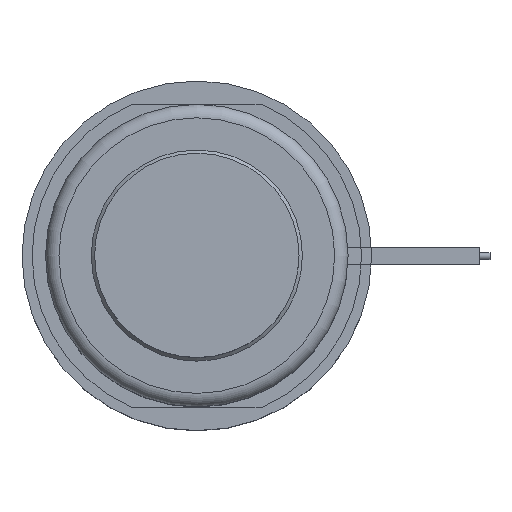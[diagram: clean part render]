
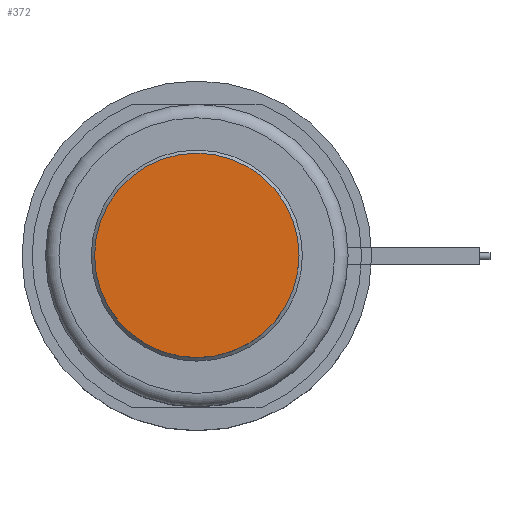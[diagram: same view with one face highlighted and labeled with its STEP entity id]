
A CAD part, top view. The second image highlights one B-rep face of the part: STEP entity #372.
In plain terms, the highlighted planar face has unit normal (0, 0, 1).
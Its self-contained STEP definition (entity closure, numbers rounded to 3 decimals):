
#253=PLANE('',#1328);
#297=FACE_OUTER_BOUND('',#579,.T.);
#372=ADVANCED_FACE('',(#297),#253,.F.);
#579=EDGE_LOOP('',(#719));
#719=ORIENTED_EDGE('',*,*,#1094,.F.);
#984=VERTEX_POINT('',#1896);
#1094=EDGE_CURVE('',#984,#984,#1233,.T.);
#1233=CIRCLE('',#1327,15.2);
#1327=AXIS2_PLACEMENT_3D('',#1895,#1530,#1531);
#1328=AXIS2_PLACEMENT_3D('',#1897,#1532,#1533);
#1530=DIRECTION('',(0.,0.,-1.));
#1531=DIRECTION('',(-1.,0.,0.));
#1532=DIRECTION('',(0.,0.,-1.));
#1533=DIRECTION('',(-1.,0.,0.));
#1895=CARTESIAN_POINT('',(0.,0.,18.));
#1896=CARTESIAN_POINT('',(-15.2,0.,18.));
#1897=CARTESIAN_POINT('',(0.,0.,18.));
